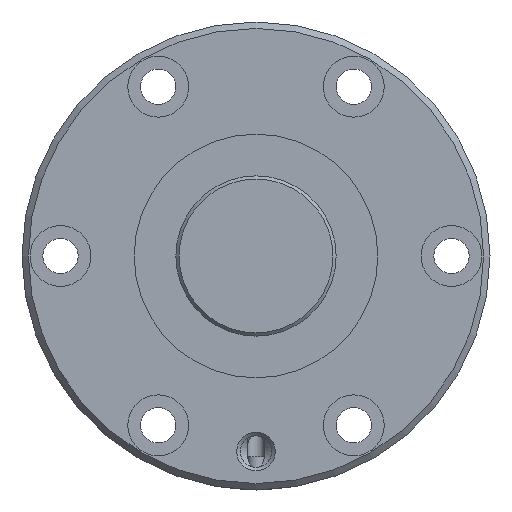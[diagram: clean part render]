
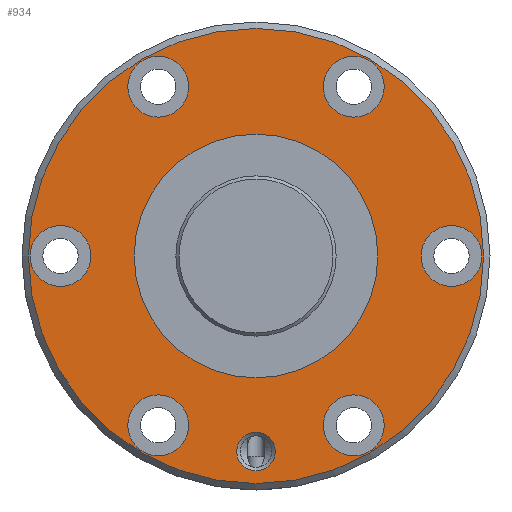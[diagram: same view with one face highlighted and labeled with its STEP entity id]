
A CAD part, left-side view. The second image highlights one B-rep face of the part: STEP entity #934.
In plain terms, the highlighted planar face has unit normal (-1, 0, 0).
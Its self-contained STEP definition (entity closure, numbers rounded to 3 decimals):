
#97=PLANE('',#1044);
#156=ORIENTED_EDGE('',*,*,#358,.T.);
#157=ORIENTED_EDGE('',*,*,#359,.T.);
#158=ORIENTED_EDGE('',*,*,#360,.T.);
#159=ORIENTED_EDGE('',*,*,#361,.T.);
#160=ORIENTED_EDGE('',*,*,#362,.T.);
#161=ORIENTED_EDGE('',*,*,#363,.T.);
#162=ORIENTED_EDGE('',*,*,#364,.T.);
#163=ORIENTED_EDGE('',*,*,#365,.T.);
#164=ORIENTED_EDGE('',*,*,#357,.F.);
#357=EDGE_CURVE('',#463,#463,#548,.T.);
#358=EDGE_CURVE('',#464,#464,#549,.T.);
#359=EDGE_CURVE('',#465,#465,#550,.F.);
#360=EDGE_CURVE('',#466,#466,#551,.T.);
#361=EDGE_CURVE('',#467,#467,#552,.T.);
#362=EDGE_CURVE('',#468,#468,#553,.T.);
#363=EDGE_CURVE('',#469,#469,#554,.T.);
#364=EDGE_CURVE('',#470,#470,#555,.T.);
#365=EDGE_CURVE('',#471,#471,#556,.T.);
#463=VERTEX_POINT('',#1564);
#464=VERTEX_POINT('',#1567);
#465=VERTEX_POINT('',#1569);
#466=VERTEX_POINT('',#1571);
#467=VERTEX_POINT('',#1573);
#468=VERTEX_POINT('',#1575);
#469=VERTEX_POINT('',#1577);
#470=VERTEX_POINT('',#1579);
#471=VERTEX_POINT('',#1581);
#548=CIRCLE('',#1043,35.5);
#549=CIRCLE('',#1045,19.);
#550=CIRCLE('',#1046,4.75);
#551=CIRCLE('',#1047,3.);
#552=CIRCLE('',#1048,4.75);
#553=CIRCLE('',#1049,4.75);
#554=CIRCLE('',#1050,4.75);
#555=CIRCLE('',#1051,4.75);
#556=CIRCLE('',#1052,4.75);
#631=EDGE_LOOP('',(#156));
#632=EDGE_LOOP('',(#157));
#633=EDGE_LOOP('',(#158));
#634=EDGE_LOOP('',(#159));
#635=EDGE_LOOP('',(#160));
#636=EDGE_LOOP('',(#161));
#637=EDGE_LOOP('',(#162));
#638=EDGE_LOOP('',(#163));
#639=EDGE_LOOP('',(#164));
#773=FACE_BOUND('',#631,.T.);
#774=FACE_BOUND('',#632,.T.);
#775=FACE_BOUND('',#633,.T.);
#776=FACE_BOUND('',#634,.T.);
#777=FACE_BOUND('',#635,.T.);
#778=FACE_BOUND('',#636,.T.);
#779=FACE_BOUND('',#637,.T.);
#780=FACE_BOUND('',#638,.T.);
#781=FACE_BOUND('',#639,.T.);
#934=ADVANCED_FACE('',(#773,#774,#775,#776,#777,#778,#779,#780,#781),#97,
 .T.);
#1043=AXIS2_PLACEMENT_3D('',#1563,#1217,#1218);
#1044=AXIS2_PLACEMENT_3D('',#1565,#1219,#1220);
#1045=AXIS2_PLACEMENT_3D('',#1566,#1221,#1222);
#1046=AXIS2_PLACEMENT_3D('',#1568,#1223,#1224);
#1047=AXIS2_PLACEMENT_3D('',#1570,#1225,#1226);
#1048=AXIS2_PLACEMENT_3D('',#1572,#1227,#1228);
#1049=AXIS2_PLACEMENT_3D('',#1574,#1229,#1230);
#1050=AXIS2_PLACEMENT_3D('',#1576,#1231,#1232);
#1051=AXIS2_PLACEMENT_3D('',#1578,#1233,#1234);
#1052=AXIS2_PLACEMENT_3D('',#1580,#1235,#1236);
#1217=DIRECTION('',(1.,0.,0.));
#1218=DIRECTION('',(0.,0.,-1.));
#1219=DIRECTION('',(-1.,0.,0.));
#1220=DIRECTION('',(0.,0.,1.));
#1221=DIRECTION('',(1.,0.,0.));
#1222=DIRECTION('',(0.,0.,-1.));
#1223=DIRECTION('',(-1.,0.,0.));
#1224=DIRECTION('',(0.,0.,1.));
#1225=DIRECTION('',(1.,0.,0.));
#1226=DIRECTION('',(0.,0.,-1.));
#1227=DIRECTION('',(1.,0.,0.));
#1228=DIRECTION('',(0.,0.,-1.));
#1229=DIRECTION('',(1.,0.,0.));
#1230=DIRECTION('',(0.,0.,-1.));
#1231=DIRECTION('',(1.,0.,0.));
#1232=DIRECTION('',(0.,0.,-1.));
#1233=DIRECTION('',(1.,0.,0.));
#1234=DIRECTION('',(0.,0.,-1.));
#1235=DIRECTION('',(1.,0.,0.));
#1236=DIRECTION('',(0.,0.,-1.));
#1563=CARTESIAN_POINT('',(0.,0.,0.));
#1564=CARTESIAN_POINT('',(0.,0.,-35.5));
#1565=CARTESIAN_POINT('',(0.,35.5,0.));
#1566=CARTESIAN_POINT('',(0.,0.,0.));
#1567=CARTESIAN_POINT('',(0.,0.,-19.));
#1568=CARTESIAN_POINT('',(0.,30.5,0.));
#1569=CARTESIAN_POINT('',(0.,30.5,4.75));
#1570=CARTESIAN_POINT('',(0.,0.,-30.5));
#1571=CARTESIAN_POINT('',(0.,0.,-33.5));
#1572=CARTESIAN_POINT('',(0.,-30.5,0.));
#1573=CARTESIAN_POINT('',(0.,-30.5,-4.75));
#1574=CARTESIAN_POINT('',(0.,15.25,26.414));
#1575=CARTESIAN_POINT('',(0.,15.25,21.664));
#1576=CARTESIAN_POINT('',(0.,-15.25,-26.414));
#1577=CARTESIAN_POINT('',(0.,-15.25,-31.164));
#1578=CARTESIAN_POINT('',(0.,-15.25,26.414));
#1579=CARTESIAN_POINT('',(0.,-15.25,21.664));
#1580=CARTESIAN_POINT('',(0.,15.25,-26.414));
#1581=CARTESIAN_POINT('',(0.,15.25,-31.164));
